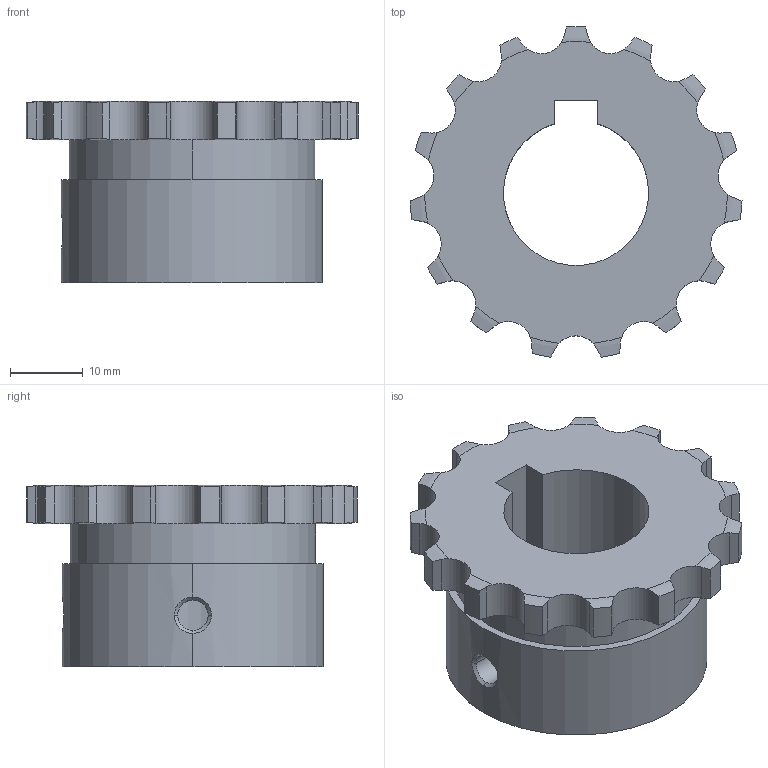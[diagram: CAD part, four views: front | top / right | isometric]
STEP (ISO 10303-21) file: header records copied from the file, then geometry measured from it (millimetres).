
FILE_DESCRIPTION((''),'2;1');
FILE_NAME('510-101-2015_PRT','2021-02-13T',('Brieden'),('Brieden'),'PRO/ENGINEER BY PARAMETRIC TECHNOLOGY CORPORATION, 2010160','PRO/ENGINEER BY PARAMETRIC TECHNOLOGY CORPORATION, 2010160','');
FILE_SCHEMA(('AUTOMOTIVE_DESIGN { 1 0 10303 214 1 1 1 1 }'));
Length unit declared in the file: millimetre
Products named in the file (1): 510-101-2015_PRT
Bounding box: 45.76 x 45.54 x 25 mm (x, y, z)
Volume: 18369.6 mm3; surface area: 7385 mm2
Topology: 1 solids, 1 shells, 112 faces, 321 edges, 212 vertices
Faces by surface type: cylinder 69, torus 30, plane 7, bspline 6
Entity records: 5487 total; most frequent: CARTESIAN_POINT 1697, ORIENTED_EDGE 642, DIRECTION 501, PRESENTATION_STYLE_ASSIGNMENT 322, STYLED_ITEM 322, CURVE_STYLE 321, EDGE_CURVE 321, VERTEX_POINT 212
